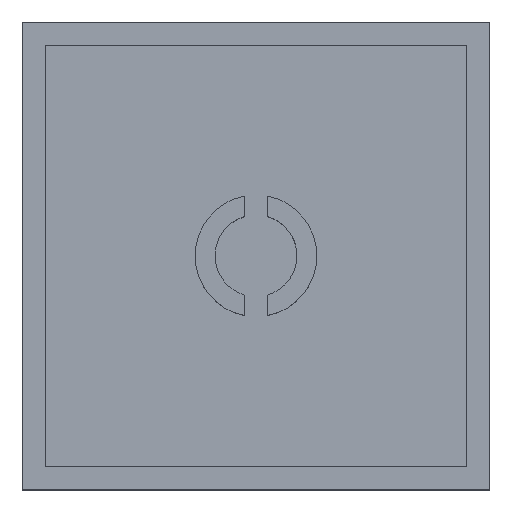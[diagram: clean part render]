
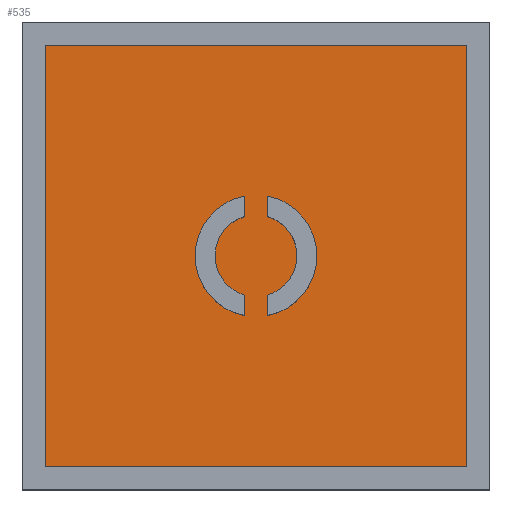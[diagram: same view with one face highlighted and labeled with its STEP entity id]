
A CAD part, top view. The second image highlights one B-rep face of the part: STEP entity #535.
In plain terms, the highlighted planar face has unit normal (0, 0, 1).
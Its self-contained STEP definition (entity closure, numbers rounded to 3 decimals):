
#9 = ORIENTED_EDGE ( 'NONE', *, *, #634, .T. ) ;
#17 = VECTOR ( 'NONE', #293, 1000. ) ;
#82 = DIRECTION ( 'NONE',  ( 1., 0., 0. ) ) ;
#84 = CARTESIAN_POINT ( 'NONE',  ( -9., -9., -0.25 ) ) ;
#107 = DIRECTION ( 'NONE',  ( 0., 1., 0. ) ) ;
#116 = DIRECTION ( 'NONE',  ( 1., 0., 0. ) ) ;
#129 = CARTESIAN_POINT ( 'NONE',  ( 9., -9., -0.25 ) ) ;
#146 = EDGE_CURVE ( 'NONE', #827, #205, #255, .T. ) ;
#157 = ORIENTED_EDGE ( 'NONE', *, *, #274, .T. ) ;
#171 = CARTESIAN_POINT ( 'NONE',  ( -9., -9., -0.25 ) ) ;
#196 = CARTESIAN_POINT ( 'NONE',  ( 9., 9., -0.25 ) ) ;
#204 = DIRECTION ( 'NONE',  ( 0., 0., 1. ) ) ;
#205 = VERTEX_POINT ( 'NONE', #129 ) ;
#215 = ORIENTED_EDGE ( 'NONE', *, *, #229, .T. ) ;
#229 = EDGE_CURVE ( 'NONE', #205, #739, #283, .T. ) ;
#255 = LINE ( 'NONE', #171, #411 ) ;
#274 = EDGE_CURVE ( 'NONE', #337, #827, #826, .T. ) ;
#281 = CARTESIAN_POINT ( 'NONE',  ( 9., 9., -0.25 ) ) ;
#283 = LINE ( 'NONE', #196, #779 ) ;
#290 = CARTESIAN_POINT ( 'NONE',  ( 0., 0., -0.25 ) ) ;
#293 = DIRECTION ( 'NONE',  ( -1., 0., 0. ) ) ;
#337 = VERTEX_POINT ( 'NONE', #701 ) ;
#365 = FACE_OUTER_BOUND ( 'NONE', #524, .T. ) ;
#381 = PLANE ( 'NONE',  #562 ) ;
#384 = CARTESIAN_POINT ( 'NONE',  ( -9., 9., -0.25 ) ) ;
#411 = VECTOR ( 'NONE', #82, 1000. ) ;
#473 = ORIENTED_EDGE ( 'NONE', *, *, #146, .T. ) ;
#524 = EDGE_LOOP ( 'NONE', ( #157, #473, #215, #9 ) ) ;
#535 = ADVANCED_FACE ( 'NONE', ( #365 ), #381, .T. ) ;
#562 = AXIS2_PLACEMENT_3D ( 'NONE', #290, #204, #116 ) ;
#619 = VECTOR ( 'NONE', #654, 1000. ) ;
#634 = EDGE_CURVE ( 'NONE', #739, #337, #814, .T. ) ;
#654 = DIRECTION ( 'NONE',  ( 0., -1., 0. ) ) ;
#701 = CARTESIAN_POINT ( 'NONE',  ( -9., 9., -0.25 ) ) ;
#738 = CARTESIAN_POINT ( 'NONE',  ( -9., 9., -0.25 ) ) ;
#739 = VERTEX_POINT ( 'NONE', #281 ) ;
#779 = VECTOR ( 'NONE', #107, 1000. ) ;
#814 = LINE ( 'NONE', #384, #17 ) ;
#826 = LINE ( 'NONE', #738, #619 ) ;
#827 = VERTEX_POINT ( 'NONE', #84 ) ;
